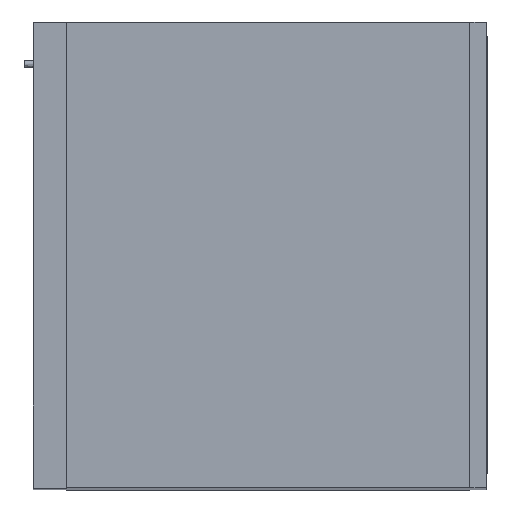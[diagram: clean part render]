
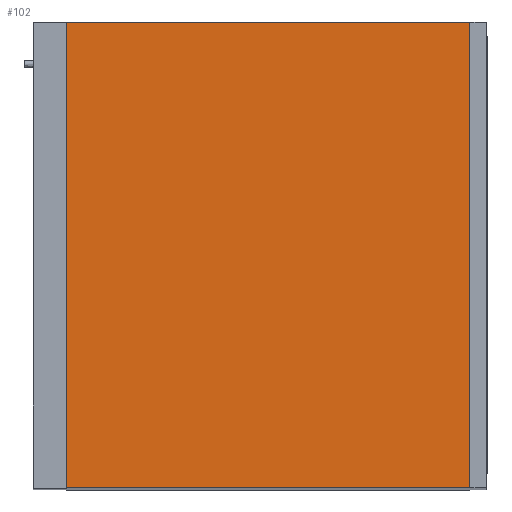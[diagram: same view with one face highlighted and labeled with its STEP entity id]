
A CAD part, top view. The second image highlights one B-rep face of the part: STEP entity #102.
In plain terms, the highlighted free-form (B-spline) face has degree [1, 1] with [2, 2] control points.
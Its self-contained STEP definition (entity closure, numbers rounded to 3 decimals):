
#102=ADVANCED_FACE('',(#142),#544,.T.);
#142=FACE_OUTER_BOUND('',#182,.T.);
#182=EDGE_LOOP('',(#355,#356,#357,#358));
#355=ORIENTED_EDGE('',*,*,#445,.F.);
#356=ORIENTED_EDGE('',*,*,#444,.T.);
#357=ORIENTED_EDGE('',*,*,#437,.T.);
#358=ORIENTED_EDGE('',*,*,#441,.F.);
#437=EDGE_CURVE('',#500,#499,#623,.T.);
#441=EDGE_CURVE('',#502,#499,#627,.T.);
#444=EDGE_CURVE('',#504,#500,#630,.T.);
#445=EDGE_CURVE('',#504,#502,#631,.T.);
#499=VERTEX_POINT('',#1326);
#500=VERTEX_POINT('',#1327);
#502=VERTEX_POINT('',#1329);
#504=VERTEX_POINT('',#1331);
#544=B_SPLINE_SURFACE_WITH_KNOTS('',1,1,((#1320,#1321),(#1322,#1323)),.UNSPECIFIED.,
.F.,.F.,.F.,(2,2),(2,2),(0.,1.),(0.,1.),.UNSPECIFIED.);
#623=B_SPLINE_CURVE_WITH_KNOTS('',1,(#1274,#1275),.UNSPECIFIED.,.F.,.F.,
(2,2),(0.,1.),.UNSPECIFIED.);
#627=B_SPLINE_CURVE_WITH_KNOTS('',1,(#1282,#1283),.UNSPECIFIED.,.F.,.F.,
(2,2),(0.,1.),.UNSPECIFIED.);
#630=B_SPLINE_CURVE_WITH_KNOTS('',1,(#1290,#1291),.UNSPECIFIED.,.F.,.F.,
(2,2),(0.,1.),.UNSPECIFIED.);
#631=B_SPLINE_CURVE_WITH_KNOTS('',1,(#1292,#1293),.UNSPECIFIED.,.F.,.F.,
(2,2),(0.,1.),.UNSPECIFIED.);
#1274=CARTESIAN_POINT('',(-20.174,279.5,1395.));
#1275=CARTESIAN_POINT('',(-504.174,279.5,1395.));
#1282=CARTESIAN_POINT('',(-504.174,-279.5,1395.));
#1283=CARTESIAN_POINT('',(-504.174,279.5,1395.));
#1290=CARTESIAN_POINT('',(-20.174,-279.5,1395.));
#1291=CARTESIAN_POINT('',(-20.174,279.5,1395.));
#1292=CARTESIAN_POINT('',(-20.174,-279.5,1395.));
#1293=CARTESIAN_POINT('',(-504.174,-279.5,1395.));
#1320=CARTESIAN_POINT('',(-20.174,-279.5,1395.));
#1321=CARTESIAN_POINT('',(-504.174,-279.5,1395.));
#1322=CARTESIAN_POINT('',(-20.174,279.5,1395.));
#1323=CARTESIAN_POINT('',(-504.174,279.5,1395.));
#1326=CARTESIAN_POINT('',(-504.174,279.5,1395.));
#1327=CARTESIAN_POINT('',(-20.174,279.5,1395.));
#1329=CARTESIAN_POINT('',(-504.174,-279.5,1395.));
#1331=CARTESIAN_POINT('',(-20.174,-279.5,1395.));
